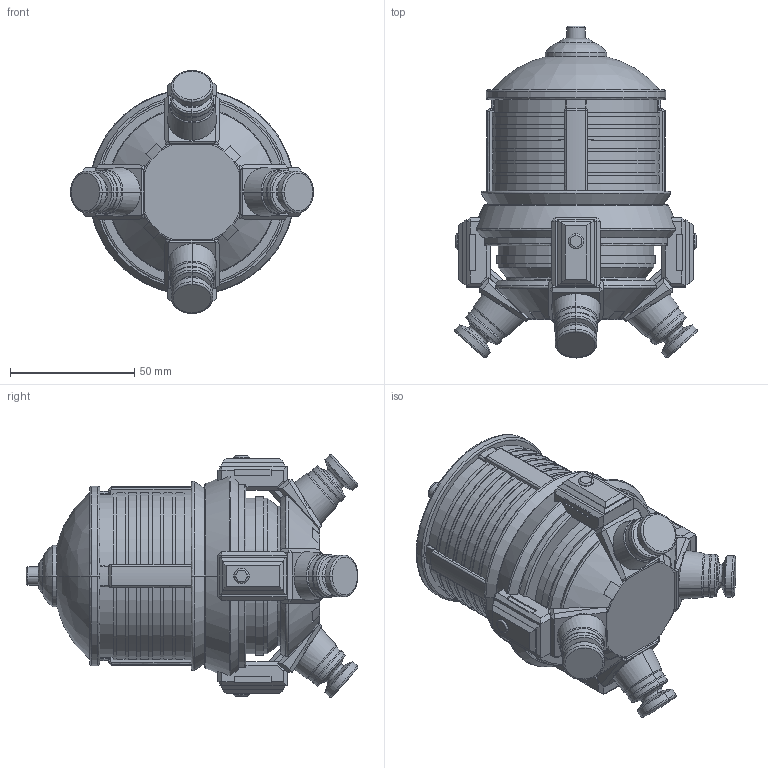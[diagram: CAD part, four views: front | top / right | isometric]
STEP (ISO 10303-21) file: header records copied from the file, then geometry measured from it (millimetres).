
FILE_DESCRIPTION(/* description */ ('STEP AP242 Edition 2','CAx-IF Rec.Pracs.---Representation and Presentation of Product Manufacturing Information (PMI)---4.0---2014-10-13','CAx-IF Rec.Pracs.---3D Tessellated Geometry---0.4---2014-09-14','2;1','CAx-IF Rec.Pracs.---User Defined Attributes---1.5---2016-08-15'),/* implementation_level */ '2;1');
FILE_NAME(/* name */ '6988df710a81f2c3950ec3a4',/* time_stamp */ '2026-02-08T19:09:42Z',/* author */ (''),/* organization */ (''),/* preprocessor_version */ 'ST-DEVELOPER v20',/* originating_system */ 'ONSHAPE BY PTC INC, 1.210',/* authorisation */ ' ');
FILE_SCHEMA (('AP242_MANAGED_MODEL_BASED_3D_ENGINEERING_MIM_LF { 1 0 10303 442 3 1 4 }'));
Length unit declared in the file: metre
Products named in the file (6): Part 4; Part 3; Part 2; Part 6; Part 5; Part 1
Bounding box: 97.75 x 133.59 x 97.75 mm (x, y, z)
Volume: 238969.6 mm3; surface area: 73104.4 mm2
Topology: 6 solids, 6 shells, 762 faces, 2002 edges, 1266 vertices
Faces by surface type: bspline 762
Entity records: 27533 total; most frequent: CARTESIAN_POINT 11539, ORIENTED_EDGE 4004, DIRECTION 2186, EDGE_CURVE 2002, VERTEX_POINT 1266, LINE 994, VECTOR 994, EDGE_LOOP 784
